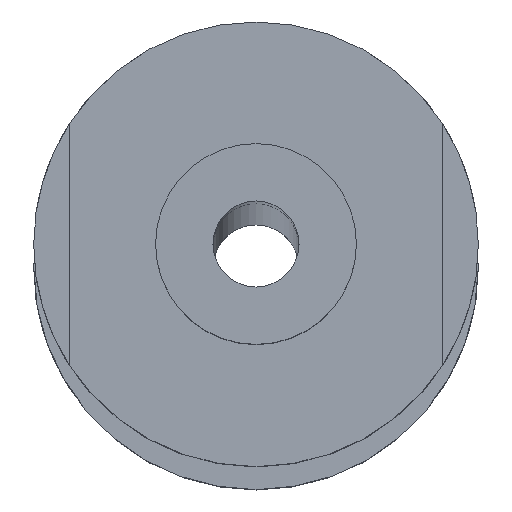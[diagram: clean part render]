
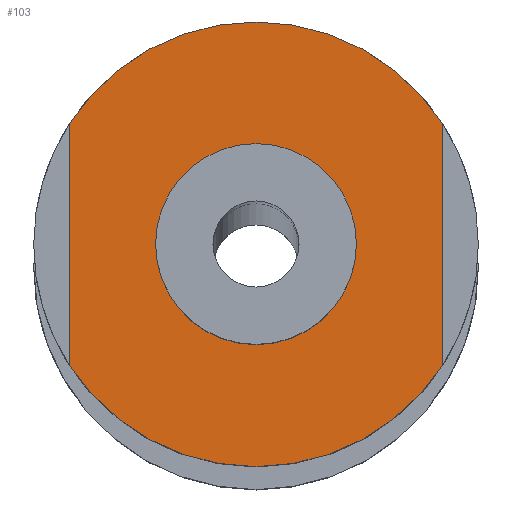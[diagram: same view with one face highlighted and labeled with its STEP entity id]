
A CAD part, top view. The second image highlights one B-rep face of the part: STEP entity #103.
In plain terms, the highlighted planar face has unit normal (0, 0, 1).
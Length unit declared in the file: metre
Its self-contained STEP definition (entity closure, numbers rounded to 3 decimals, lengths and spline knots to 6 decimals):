
#103=ADVANCED_FACE('0:72',(#208,#209),#210,.T.);
#208=FACE_OUTER_BOUND('',#334,.T.);
#209=FACE_BOUND('',#335,.T.);
#210=PLANE('',#336);
#334=EDGE_LOOP('',(#518,#519,#520,#521));
#335=EDGE_LOOP('',(#522,#523));
#336=AXIS2_PLACEMENT_3D('',#524,#525,#526);
#518=ORIENTED_EDGE('',*,*,#734,.F.);
#519=ORIENTED_EDGE('',*,*,#727,.F.);
#520=ORIENTED_EDGE('',*,*,#697,.F.);
#521=ORIENTED_EDGE('',*,*,#722,.T.);
#522=ORIENTED_EDGE('',*,*,#720,.F.);
#523=ORIENTED_EDGE('',*,*,#707,.F.);
#524=CARTESIAN_POINT('',(0.0,0.0,3.295));
#525=DIRECTION('',(0.0,0.0,1.0));
#526=DIRECTION('',(1.0,0.0,0.0));
#697=EDGE_CURVE('0:90',#832,#834,#835,.F.);
#707=EDGE_CURVE('',#849,#852,#853,.T.);
#720=EDGE_CURVE('0:111',#852,#849,#871,.T.);
#722=EDGE_CURVE('0:174',#832,#873,#874,.T.);
#727=EDGE_CURVE('0:183',#834,#881,#882,.F.);
#734=EDGE_CURVE('0:102',#881,#873,#889,.F.);
#832=VERTEX_POINT('',#1023);
#834=VERTEX_POINT('',#1026);
#835=CIRCLE('',#1027,0.0155);
#849=VERTEX_POINT('',#1044);
#852=VERTEX_POINT('',#1048);
#853=CIRCLE('',#1049,0.007);
#871=CIRCLE('',#1070,0.007);
#873=VERTEX_POINT('',#1072);
#874=LINE('',#1073,#1074);
#881=VERTEX_POINT('',#1084);
#882=LINE('',#1085,#1086);
#889=CIRCLE('',#1094,0.0155);
#1023=CARTESIAN_POINT('',(-0.013092,0.008536,3.295));
#1026=CARTESIAN_POINT('',(0.012908,0.008536,3.295));
#1027=AXIS2_PLACEMENT_3D('',#1231,#1232,#1233);
#1044=CARTESIAN_POINT('',(0.006908,0.000095,3.295));
#1048=CARTESIAN_POINT('',(-0.007092,0.000095,3.295));
#1049=AXIS2_PLACEMENT_3D('',#1247,#1248,#1249);
#1070=AXIS2_PLACEMENT_3D('',#1271,#1272,#1273);
#1072=CARTESIAN_POINT('',(-0.013092,-0.008346,3.295));
#1073=CARTESIAN_POINT('',(-0.013092,0.000048,3.295));
#1074=VECTOR('',#1274,1.0);
#1084=CARTESIAN_POINT('',(0.012908,-0.008346,3.295));
#1085=CARTESIAN_POINT('',(0.012908,0.000048,3.295));
#1086=VECTOR('',#1278,1.0);
#1094=AXIS2_PLACEMENT_3D('',#1289,#1290,#1291);
#1231=CARTESIAN_POINT('',(-0.000092,0.000095,3.295));
#1232=DIRECTION('',(0.0,0.0,1.0));
#1233=DIRECTION('',(1.0,0.0,0.0));
#1247=CARTESIAN_POINT('',(-0.000092,0.000095,3.295));
#1248=DIRECTION('',(0.0,0.0,1.0));
#1249=DIRECTION('',(1.0,0.0,-0.0));
#1271=CARTESIAN_POINT('',(-0.000092,0.000095,3.295));
#1272=DIRECTION('',(0.0,0.0,1.0));
#1273=DIRECTION('',(1.0,0.0,-0.0));
#1274=DIRECTION('',(0.,-1.0,0.0));
#1278=DIRECTION('',(0.,1.0,0.0));
#1289=CARTESIAN_POINT('',(-0.000092,0.000095,3.295));
#1290=DIRECTION('',(0.0,0.0,1.0));
#1291=DIRECTION('',(1.0,0.0,0.0));
